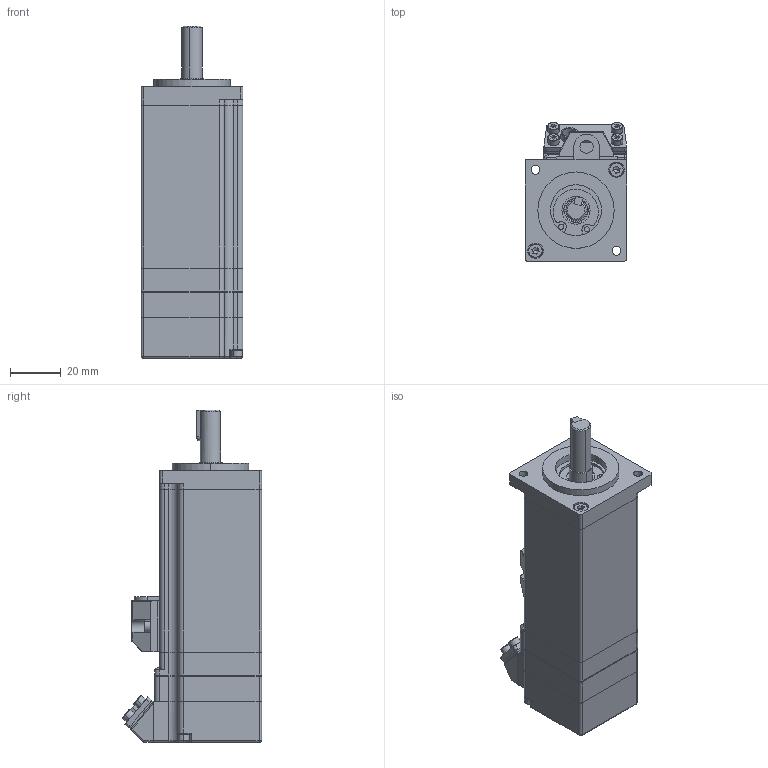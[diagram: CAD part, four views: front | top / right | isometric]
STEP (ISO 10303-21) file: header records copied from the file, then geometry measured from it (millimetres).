
FILE_DESCRIPTION (( 'STEP AP203' ), '1' );
FILE_NAME ('SMH40-1030210ENL-1×Ü×°.STEP', '2020-03-18T01:56:22', ( 'user' ), ( '' ), 'SwSTEP 2.0', 'SolidWorks 2016', '' );
FILE_SCHEMA (( 'CONFIG_CONTROL_DESIGN' ));
Length unit declared in the file: millimetre
Products named in the file (1): SMH40-1030210ENL-1軞蚾
Bounding box: 40 x 54.65 x 130.4 mm (x, y, z)
Volume: 76929.4 mm3; surface area: 57834.1 mm2
Topology: 25 solids, 25 shells, 1013 faces, 2770 edges, 1765 vertices
Faces by surface type: cylinder 420, plane 388, torus 106, cone 54, sphere 43, bspline 2
Entity records: 32748 total; most frequent: CARTESIAN_POINT 7039, DIRECTION 5573, ORIENTED_EDGE 5300, EDGE_CURVE 2650, AXIS2_PLACEMENT_3D 2189, VERTEX_POINT 1703, LINE 1195, VECTOR 1195
